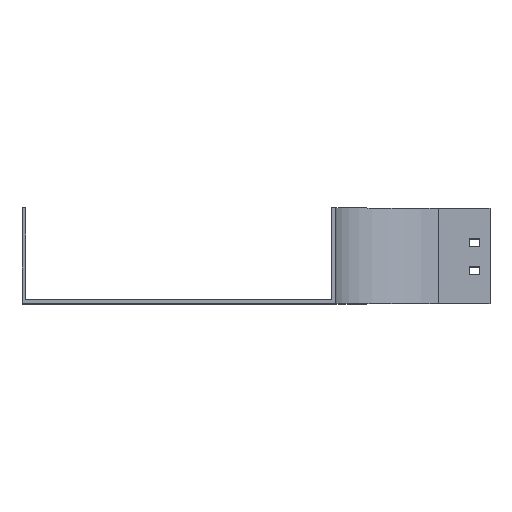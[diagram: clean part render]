
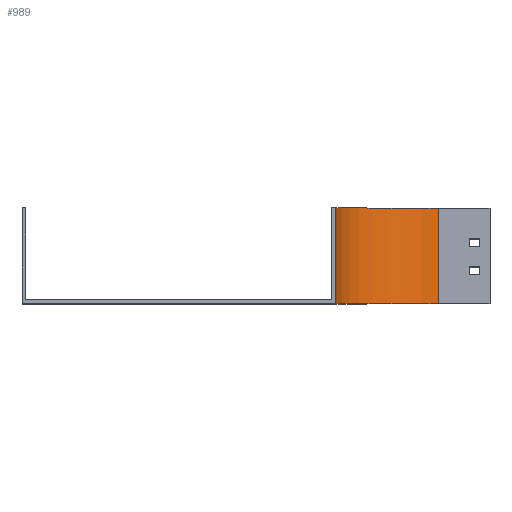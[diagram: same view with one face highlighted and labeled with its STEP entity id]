
A CAD part, top view. The second image highlights one B-rep face of the part: STEP entity #989.
In plain terms, the highlighted cylindrical face has radius 100 mm (diameter 200 mm), a partial arc.
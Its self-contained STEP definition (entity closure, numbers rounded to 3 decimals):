
#138 = DIRECTION ( 'NONE',  ( 0., 0., -1. ) ) ;
#246 = VECTOR ( 'NONE', #1138, 1000. ) ;
#441 = CARTESIAN_POINT ( 'NONE',  ( 0., 92.5, -100. ) ) ;
#737 = DIRECTION ( 'NONE',  ( 0., -1., 0. ) ) ;
#765 = DIRECTION ( 'NONE',  ( 0., 0., -1. ) ) ;
#768 = ORIENTED_EDGE ( 'NONE', *, *, #2401, .F. ) ;
#869 = CARTESIAN_POINT ( 'NONE',  ( -100., 92.5, 0. ) ) ;
#986 = CYLINDRICAL_SURFACE ( 'NONE', #2552, 100. ) ;
#989 = ADVANCED_FACE ( 'NONE', ( #2207 ), #986, .F. ) ;
#1136 = VERTEX_POINT ( 'NONE', #1277 ) ;
#1138 = DIRECTION ( 'NONE',  ( 0., -1., 0. ) ) ;
#1178 = CARTESIAN_POINT ( 'NONE',  ( 0., 92.5, -100. ) ) ;
#1277 = CARTESIAN_POINT ( 'NONE',  ( 0., 0., -100. ) ) ;
#1411 = LINE ( 'NONE', #1178, #2688 ) ;
#1466 = VERTEX_POINT ( 'NONE', #2727 ) ;
#1502 = LINE ( 'NONE', #1698, #246 ) ;
#1506 = ORIENTED_EDGE ( 'NONE', *, *, #2114, .F. ) ;
#1588 = EDGE_CURVE ( 'NONE', #1466, #1136, #2376, .T. ) ;
#1698 = CARTESIAN_POINT ( 'NONE',  ( -100., 92.5, 0. ) ) ;
#1730 = VERTEX_POINT ( 'NONE', #441 ) ;
#1744 = EDGE_LOOP ( 'NONE', ( #2572, #768, #1506, #2649 ) ) ;
#1832 = AXIS2_PLACEMENT_3D ( 'NONE', #2657, #2410, #765 ) ;
#1874 = DIRECTION ( 'NONE',  ( 0., 0., -1. ) ) ;
#2010 = DIRECTION ( 'NONE',  ( 0., -1., 0. ) ) ;
#2039 = EDGE_CURVE ( 'NONE', #2373, #1466, #1502, .T. ) ;
#2059 = AXIS2_PLACEMENT_3D ( 'NONE', #2555, #2135, #1874 ) ;
#2114 = EDGE_CURVE ( 'NONE', #2373, #1730, #2378, .T. ) ;
#2135 = DIRECTION ( 'NONE',  ( 0., -1., 0. ) ) ;
#2207 = FACE_OUTER_BOUND ( 'NONE', #1744, .T. ) ;
#2373 = VERTEX_POINT ( 'NONE', #869 ) ;
#2376 = CIRCLE ( 'NONE', #1832, 100. ) ;
#2378 = CIRCLE ( 'NONE', #2059, 100. ) ;
#2401 = EDGE_CURVE ( 'NONE', #1730, #1136, #1411, .T. ) ;
#2410 = DIRECTION ( 'NONE',  ( 0., -1., 0. ) ) ;
#2424 = CARTESIAN_POINT ( 'NONE',  ( 0., 92.5, 0. ) ) ;
#2552 = AXIS2_PLACEMENT_3D ( 'NONE', #2424, #2010, #138 ) ;
#2555 = CARTESIAN_POINT ( 'NONE',  ( 0., 92.5, 0. ) ) ;
#2572 = ORIENTED_EDGE ( 'NONE', *, *, #1588, .T. ) ;
#2649 = ORIENTED_EDGE ( 'NONE', *, *, #2039, .T. ) ;
#2657 = CARTESIAN_POINT ( 'NONE',  ( 0., 0., 0. ) ) ;
#2688 = VECTOR ( 'NONE', #737, 1000. ) ;
#2727 = CARTESIAN_POINT ( 'NONE',  ( -100., 0., 0. ) ) ;
